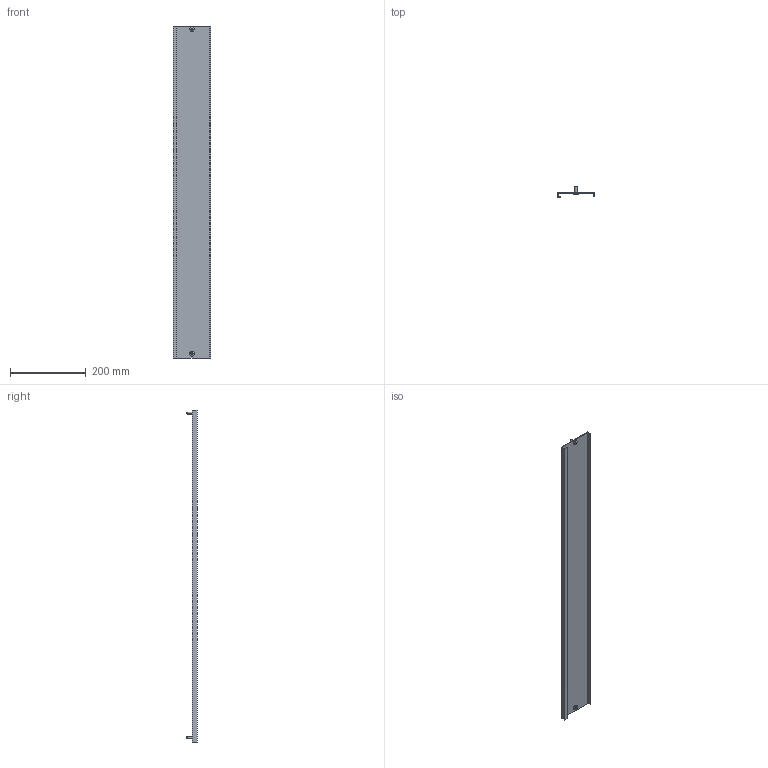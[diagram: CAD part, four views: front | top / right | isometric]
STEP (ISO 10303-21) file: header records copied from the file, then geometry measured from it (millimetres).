
FILE_DESCRIPTION (( 'STEP AP214' ), '1' );
FILE_NAME ('FO-00-PVS-010-100 Ïëàñòðîí ãëóõîé âíóòðåííèé 100õ1000.STEP', '2025-09-29T19:32:15', ( '' ), ( '' ), 'SwSTEP 2.0', 'SolidWorks 2023', '' );
FILE_SCHEMA (( 'AUTOMOTIVE_DESIGN' ));
Length unit declared in the file: millimetre
Products named in the file (3): FO-00-PVS-010-100 Пластрон глухой внутренний 100х1000; Винт М6х16 IEK
Assembly tree (3 placements, depth 2):
  FO-00-PVS-010-100 Пластрон глухой внутренний 100х1000
    FO-00-PVS-010-100 Пластрон глухой внутренний 100х1000
    Винт М6х16 IEK  x2
Bounding box: 98 x 27 x 879 mm (x, y, z)
Volume: 164916.3 mm3; surface area: 222192.2 mm2
Topology: 3 solids, 3 shells, 86 faces, 226 edges, 148 vertices
Faces by surface type: cylinder 44, plane 32, cone 6, bspline 4
Entity records: 2002 total; most frequent: CARTESIAN_POINT 426, ORIENTED_EDGE 316, DIRECTION 308, EDGE_CURVE 158, VERTEX_POINT 104, AXIS2_PLACEMENT_3D 104, LINE 100, VECTOR 100
